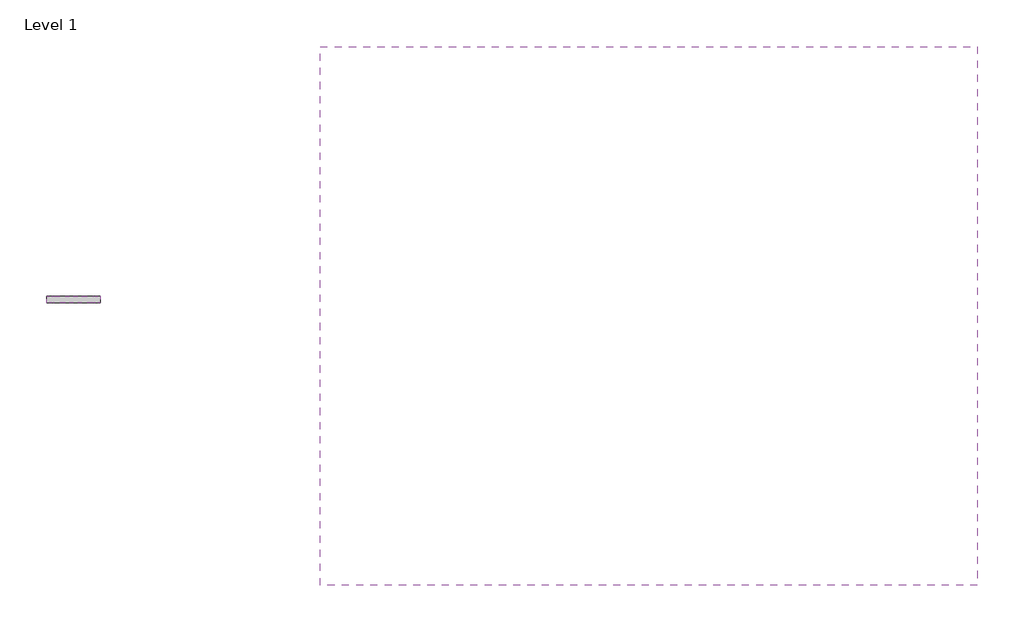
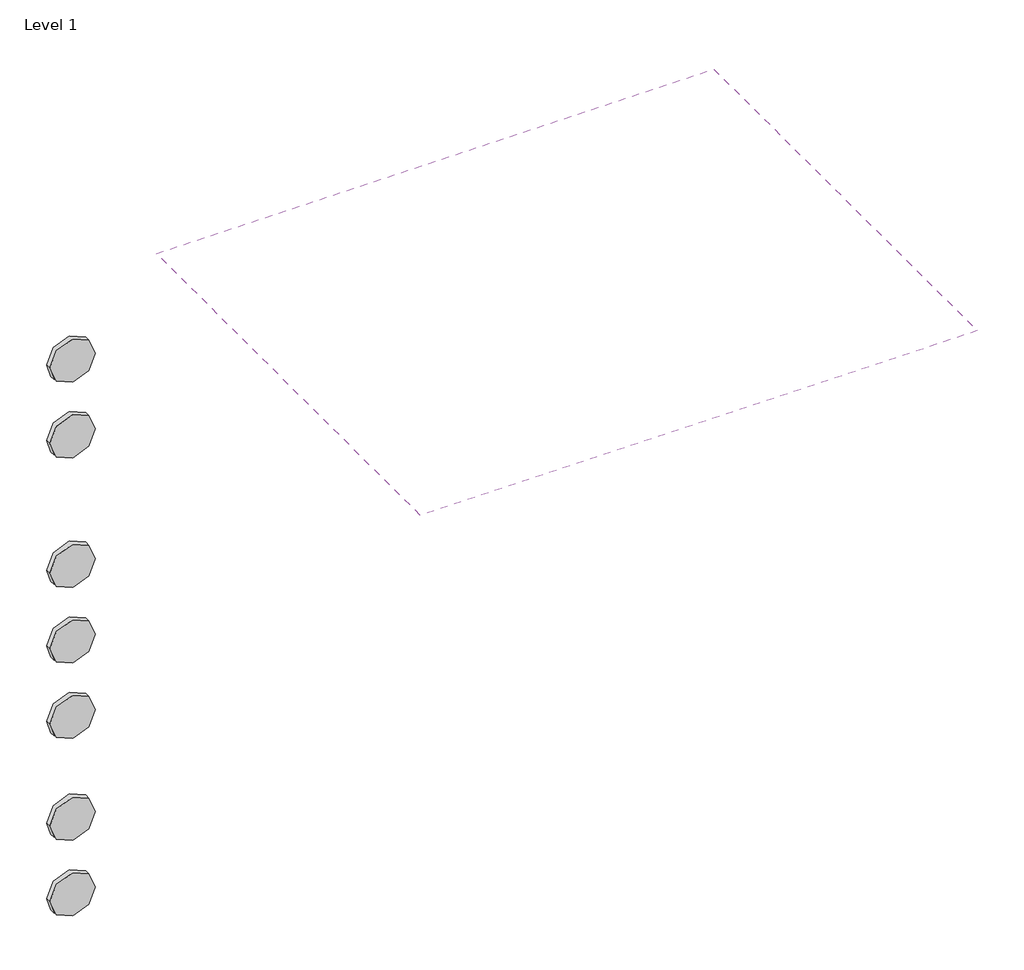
# One storey, incomplete: 7 proxies, 1 covering.
"""IFC4 building model written with IfcOpenShell, lengths in millimetres."""

from ifc_helpers import new_model, si_unit, frame, origin, place, context, project, spatial, polyline, outline, extrude, transform, mapped, element, save
from components import materialmodel_materialmodel_73a78689

model = new_model("IFC4")

# Units and contexts
model_context = context("Model", 3, world=origin())
ifc_project = project(units=[si_unit("LENGTHUNIT", "METRE", prefix="MILLI")], contexts=[model_context])

# Site, building, storey
site = spatial("IfcSite", under=ifc_project)
building = spatial("IfcBuilding", under=site)
storey = spatial("IfcBuildingStorey", under=building, Name="Level 1", Elevation=0.0)

# Proxies
placement = place(None, origin())
materialmodel_materialmodel_shape = materialmodel_materialmodel_73a78689(model_context)
element("IfcBuildingElementProxy", 1, Name="MaterialModel : MaterialModel", ObjectType="MaterialModel : MaterialModel", at=placement, inside=storey, context=model_context, shape_type="MappedRepresentation", body=[
    mapped(materialmodel_materialmodel_shape, transform((-14939.2264414, 6097.5863071, 1650.2296761), x_axis=(1.0, 0.0, 0.0), y_axis=(0.0, 1.0, 0.0), z_axis=(0.0, 0.0, 1.0))),
])
element("IfcBuildingElementProxy", 2, Name="MaterialModel : MaterialModel", ObjectType="MaterialModel : MaterialModel", at=placement, inside=storey, context=model_context, shape_type="MappedRepresentation", body=[
    mapped(materialmodel_materialmodel_shape, transform((-14939.2264414, 6097.5863071, 2125.4161759), x_axis=(1.0, 0.0, 0.0), y_axis=(0.0, 1.0, 0.0), z_axis=(0.0, 0.0, 1.0))),
])
element("IfcBuildingElementProxy", 3, Name="MaterialModel : MaterialModel", ObjectType="MaterialModel : MaterialModel", at=placement, inside=storey, context=model_context, shape_type="MappedRepresentation", body=[
    mapped(materialmodel_materialmodel_shape, transform((-14939.2264414, 6097.5863071, 1950.4161759), x_axis=(1.0, 0.0, 0.0), y_axis=(0.0, 1.0, 0.0), z_axis=(0.0, 0.0, 1.0))),
])
element("IfcBuildingElementProxy", 4, Name="MaterialModel : MaterialModel", ObjectType="MaterialModel : MaterialModel", at=placement, inside=storey, context=model_context, shape_type="MappedRepresentation", body=[
    mapped(materialmodel_materialmodel_shape, transform((-14939.2264414, 6097.5863071, 1064.5812505), x_axis=(1.0, 0.0, 0.0), y_axis=(0.0, 1.0, 0.0), z_axis=(0.0, 0.0, 1.0))),
])
element("IfcBuildingElementProxy", 5, Name="MaterialModel : MaterialModel", ObjectType="MaterialModel : MaterialModel", at=placement, inside=storey, context=model_context, shape_type="MappedRepresentation", body=[
    mapped(materialmodel_materialmodel_shape, transform((-14939.2264414, 6097.5863071, 889.5812505), x_axis=(1.0, 0.0, 0.0), y_axis=(0.0, 1.0, 0.0), z_axis=(0.0, 0.0, 1.0))),
])
element("IfcBuildingElementProxy", 6, Name="MaterialModel : MaterialModel", ObjectType="MaterialModel : MaterialModel", at=placement, inside=storey, context=model_context, shape_type="MappedRepresentation", body=[
    mapped(materialmodel_materialmodel_shape, transform((-14939.2264414, 6097.5863071, 1475.2296761), x_axis=(1.0, 0.0, 0.0), y_axis=(0.0, 1.0, 0.0), z_axis=(0.0, 0.0, 1.0))),
])
element("IfcBuildingElementProxy", 7, Name="MaterialModel : MaterialModel", ObjectType="MaterialModel : MaterialModel", at=placement, inside=storey, context=model_context, shape_type="MappedRepresentation", body=[
    mapped(materialmodel_materialmodel_shape, transform((-14939.2264414, 6097.5863071, 1300.2296761), x_axis=(1.0, 0.0, 0.0), y_axis=(0.0, 1.0, 0.0), z_axis=(0.0, 0.0, 1.0))),
])

# Covering
element("IfcCovering", 8, ObjectType="600 x 1200mm Grid", at=placement, inside=storey, context=model_context, shape_type="SweptSolid", body=[
    extrude(outline(polyline([(-13260.883584, 6561.1087432), (-13260.883584, 5561.1087432), (-14480.883584, 5561.1087432), (-14480.883584, 6561.1087432), (-13260.883584, 6561.1087432)])), frame((0.0, 0.0, 2000.0), z_axis=(0.0, 0.0, 1.0), x_axis=(1.0, 0.0, 0.0)), (0.0, 0.0, 1.0), 52.0),
])

save(model, "model.ifc")
